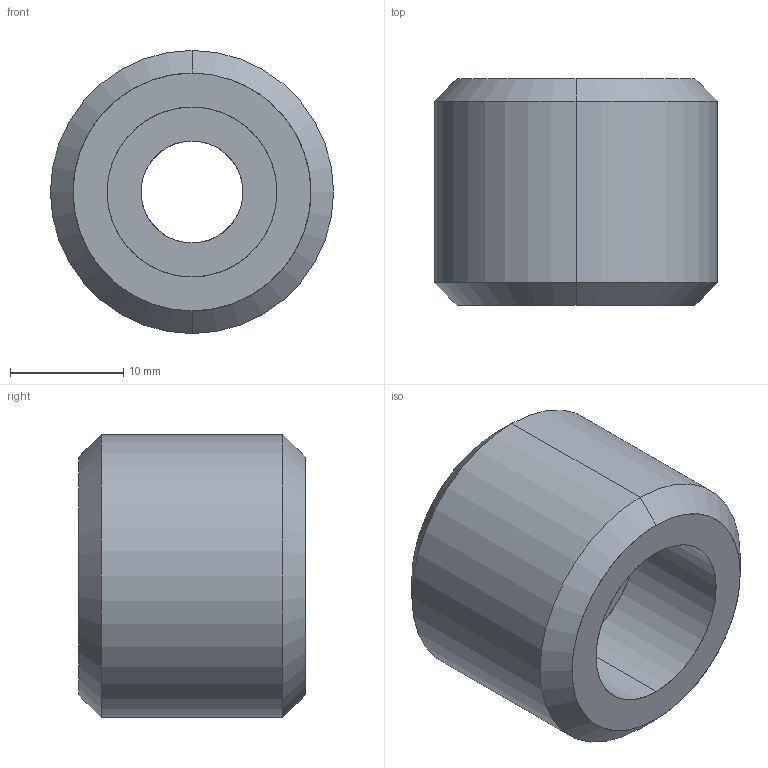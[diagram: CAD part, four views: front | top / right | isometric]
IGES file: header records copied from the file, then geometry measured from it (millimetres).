
Start section: START RECORD GO HERE.
Global section: file name: 758+25+20+10.igs; native system: DASSAULT SYSTEMES CATIA V5 R20 - www.3ds.com; preprocessor: CATIA Version 5 Release 20 ; author: Utente; organization: NB04-ASUS; date: 20201028.202345; units: millimetre
Bounding box: 25 x 20 x 25 mm (x, y, z)
Surface area: 2984.9 mm2 (no closed solid volume)
Topology: 0 solids, 0 shells, 13 faces, 52 edges, 52 vertices
Faces by surface type: revolution 10, plane 3
